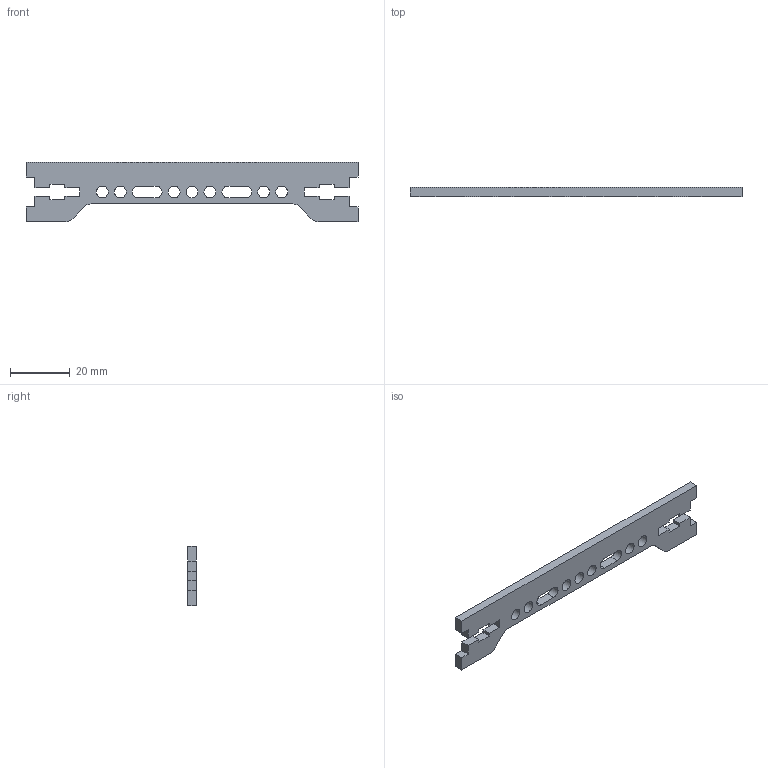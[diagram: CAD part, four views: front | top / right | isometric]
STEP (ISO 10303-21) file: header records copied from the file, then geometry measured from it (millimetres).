
FILE_DESCRIPTION(/* description */ ('Unknown'),/* implementation_level */ '2;1');
FILE_NAME(/* name */ 'PSM05',/* time_stamp */ '2025-10-07T10:37:44+02:00',/* author */ ('Unknown'),/* organization */ ('Unknown'),/* preprocessor_version */ 'ST-DEVELOPER v19.4',/* originating_system */ 'Solid Edge',/* authorisation */ 'Unknown');
FILE_SCHEMA (('AUTOMOTIVE_DESIGN {1 0 10303 214 3 1 1}'));
Length unit declared in the file: millimetre
Products named in the file (1): PSM05
Bounding box: 111 x 3 x 20 mm (x, y, z)
Volume: 4292.7 mm3; surface area: 4314.9 mm2
Topology: 1 solids, 1 shells, 61 faces, 181 edges, 122 vertices
Faces by surface type: plane 46, cylinder 15
Full cylindrical faces by diameter (mm): 4 x7
Entity records: 2032 total; most frequent: CARTESIAN_POINT 350, ORIENTED_EDGE 340, DIRECTION 324, EDGE_CURVE 170, LINE 140, VECTOR 140, VERTEX_POINT 118, AXIS2_PLACEMENT_3D 92
